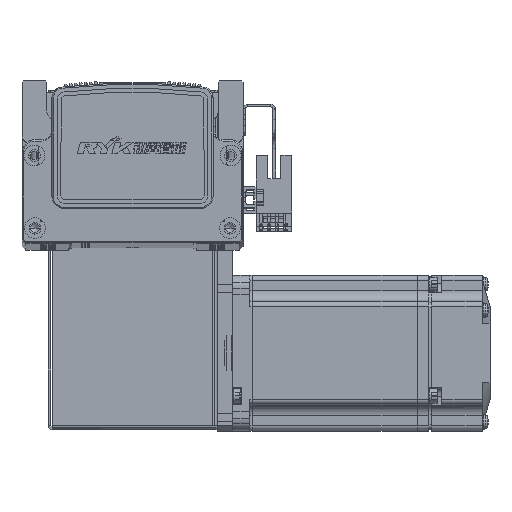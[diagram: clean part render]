
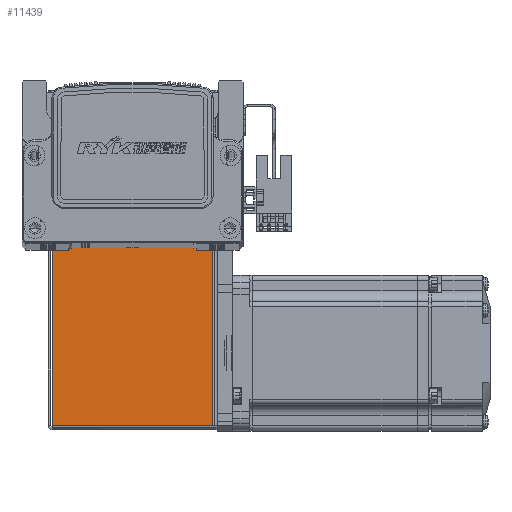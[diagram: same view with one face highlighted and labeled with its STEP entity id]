
A CAD part, top view. The second image highlights one B-rep face of the part: STEP entity #11439.
In plain terms, the highlighted planar face has unit normal (0, 0, 1).
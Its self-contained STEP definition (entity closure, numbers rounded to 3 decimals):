
#6424 = CARTESIAN_POINT ( 'NONE',  ( -30.793, 0.737, 35. ) ) ;
#6427 = CARTESIAN_POINT ( 'NONE',  ( 30.763, 72.5, 35. ) ) ;
#6442 = CARTESIAN_POINT ( 'NONE',  ( -30.793, 72.5, 35. ) ) ;
#6483 = CARTESIAN_POINT ( 'NONE',  ( 30.763, 0.737, 35. ) ) ;
#11439 = ADVANCED_FACE ( 'NONE', ( #55592 ), #56944, .F. ) ;
#26974 = EDGE_LOOP ( 'NONE', ( #54120, #54168, #54076, #54070 ) ) ;
#27065 = VERTEX_POINT ( 'NONE', #6442 ) ;
#27121 = VERTEX_POINT ( 'NONE', #6427 ) ;
#27151 = VERTEX_POINT ( 'NONE', #6483 ) ;
#27163 = VERTEX_POINT ( 'NONE', #6424 ) ;
#36312 = EDGE_CURVE ( 'NONE', #27121, #27065, #72801, .T. ) ;
#36390 = EDGE_CURVE ( 'NONE', #27151, #27163, #72897, .T. ) ;
#36391 = EDGE_CURVE ( 'NONE', #27163, #27065, #72886, .T. ) ;
#36432 = EDGE_CURVE ( 'NONE', #27151, #27121, #72288, .T. ) ;
#54070 = ORIENTED_EDGE ( 'NONE', *, *, #36390, .F. ) ;
#54076 = ORIENTED_EDGE ( 'NONE', *, *, #36391, .F. ) ;
#54120 = ORIENTED_EDGE ( 'NONE', *, *, #36432, .T. ) ;
#54168 = ORIENTED_EDGE ( 'NONE', *, *, #36312, .T. ) ;
#55592 = FACE_OUTER_BOUND ( 'NONE', #26974, .T. ) ;
#56944 = PLANE ( 'NONE',  #59031 ) ;
#56968 = DIRECTION ( 'NONE',  ( -1., 0., 0. ) ) ;
#57004 = CARTESIAN_POINT ( 'NONE',  ( 0., 0., 35. ) ) ;
#57029 = DIRECTION ( 'NONE',  ( 0., 0., -1. ) ) ;
#59031 = AXIS2_PLACEMENT_3D ( 'NONE', #57004, #57029, #56968 ) ;
#63966 = DIRECTION ( 'NONE',  ( 0., 1., 0. ) ) ;
#64703 = CARTESIAN_POINT ( 'NONE',  ( 0., 72.5, 35. ) ) ;
#64708 = DIRECTION ( 'NONE',  ( -1., 0., 0. ) ) ;
#64887 = DIRECTION ( 'NONE',  ( -1., 0., 0. ) ) ;
#64888 = CARTESIAN_POINT ( 'NONE',  ( -32.5, 0.737, 35. ) ) ;
#64891 = DIRECTION ( 'NONE',  ( 0., 1., 0. ) ) ;
#64915 = CARTESIAN_POINT ( 'NONE',  ( -30.793, 0., 35. ) ) ;
#64989 = CARTESIAN_POINT ( 'NONE',  ( 30.763, 0.737, 35. ) ) ;
#72288 = LINE ( 'NONE', #64989, #72428 ) ;
#72428 = VECTOR ( 'NONE', #63966, 1000. ) ;
#72759 = VECTOR ( 'NONE', #64708, 1000. ) ;
#72801 = LINE ( 'NONE', #64703, #72759 ) ;
#72885 = VECTOR ( 'NONE', #64887, 1000. ) ;
#72886 = LINE ( 'NONE', #64915, #72912 ) ;
#72897 = LINE ( 'NONE', #64888, #72885 ) ;
#72912 = VECTOR ( 'NONE', #64891, 1000. ) ;
